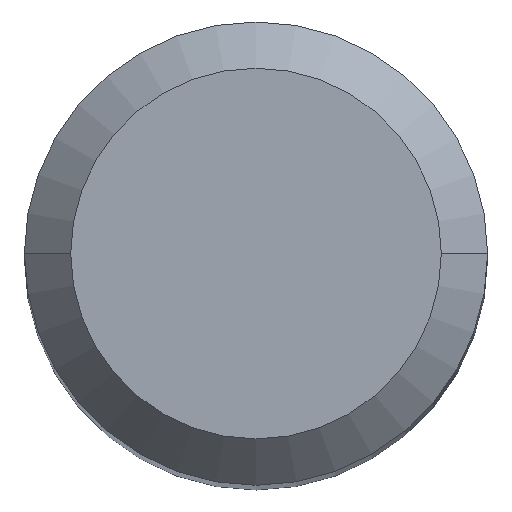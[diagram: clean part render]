
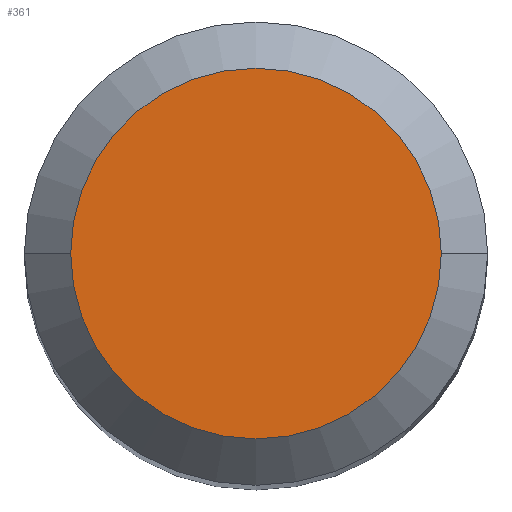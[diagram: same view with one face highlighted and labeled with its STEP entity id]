
A CAD part, top view. The second image highlights one B-rep face of the part: STEP entity #361.
In plain terms, the highlighted planar face has unit normal (0, 0, 1).
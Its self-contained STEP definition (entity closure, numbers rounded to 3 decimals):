
#1 = VERTEX_POINT ( 'NONE', #139 ) ;
#14 = EDGE_CURVE ( 'NONE', #233, #1, #467, .T. ) ;
#80 = CIRCLE ( 'NONE', #302, 2.4 ) ;
#89 = CARTESIAN_POINT ( 'NONE',  ( 2.4, 0., 0. ) ) ;
#98 = DIRECTION ( 'NONE',  ( 0., 0., -1. ) ) ;
#139 = CARTESIAN_POINT ( 'NONE',  ( -2.4, 0., 0. ) ) ;
#174 = CARTESIAN_POINT ( 'NONE',  ( 0., 0., 0. ) ) ;
#191 = FACE_OUTER_BOUND ( 'NONE', #483, .T. ) ;
#199 = EDGE_CURVE ( 'NONE', #1, #233, #80, .T. ) ;
#229 = PLANE ( 'NONE',  #259 ) ;
#233 = VERTEX_POINT ( 'NONE', #89 ) ;
#259 = AXIS2_PLACEMENT_3D ( 'NONE', #491, #271, #484 ) ;
#271 = DIRECTION ( 'NONE',  ( 0., 0., 1. ) ) ;
#302 = AXIS2_PLACEMENT_3D ( 'NONE', #174, #342, #536 ) ;
#312 = CARTESIAN_POINT ( 'NONE',  ( 0., 0., 0. ) ) ;
#342 = DIRECTION ( 'NONE',  ( 0., 0., -1. ) ) ;
#360 = ORIENTED_EDGE ( 'NONE', *, *, #199, .F. ) ;
#361 = ADVANCED_FACE ( 'NONE', ( #191 ), #229, .T. ) ;
#396 = DIRECTION ( 'NONE',  ( -1., 0., 0. ) ) ;
#446 = AXIS2_PLACEMENT_3D ( 'NONE', #312, #98, #396 ) ;
#467 = CIRCLE ( 'NONE', #446, 2.4 ) ;
#478 = ORIENTED_EDGE ( 'NONE', *, *, #14, .F. ) ;
#483 = EDGE_LOOP ( 'NONE', ( #360, #478 ) ) ;
#484 = DIRECTION ( 'NONE',  ( 1., 0., 0. ) ) ;
#491 = CARTESIAN_POINT ( 'NONE',  ( 0., 2.4, 0. ) ) ;
#536 = DIRECTION ( 'NONE',  ( -1., 0., 0. ) ) ;
